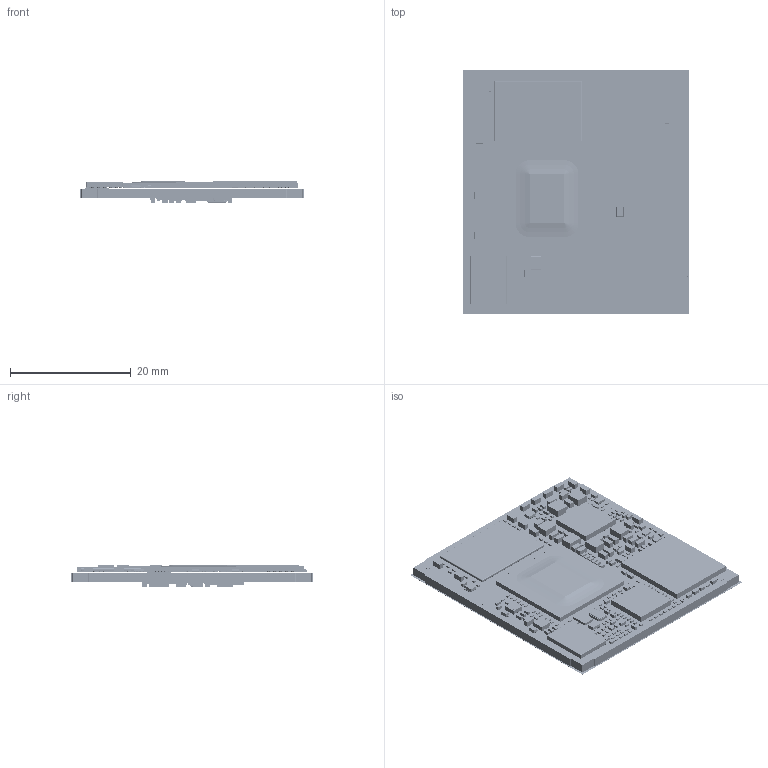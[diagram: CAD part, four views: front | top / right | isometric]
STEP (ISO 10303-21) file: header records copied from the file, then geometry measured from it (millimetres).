
FILE_DESCRIPTION(('STEP AP214'),'1');
FILE_NAME('1617.0_BoardAndModels.step','2023-12-20T09:33:39',(' '),(' '),'Spatial InterOp 3D','XD3DPlugin XRACreate',' ');
FILE_SCHEMA(('automotive_design'));
Length unit declared in the file: millimetre
Products named in the file (130): Submodel-N:\GROUP\DEVELOP\HARDWARE\PCL-078_phyCORE-iMX8MPlus__lpar_FPSC_rpar_\Design\1617.0\002\PCB\Layout\3D\Input_S\0201YC101KAZ2A.xtd; 0201YC101KAZ2A; Submodel-CAP3713_part_simplified_0201; DesignRootModel; Submodel-N:\GROUP\DEVELOP\HARDWARE\PCL-078_phyCORE-iMX8MPlus__lpar_FPSC_rpar_\Design\1617.0\002\PCB\Layout\3D\Input_S\06035C473JAZ7A_0.xtd; 06035C473JAZ7A_0; Submodel-CAP3343_part_simplified_0603-C3; Submodel-N:\GROUP\DEVELOP\HARDWARE\PCL-078_phyCORE-iMX8MPlus__lpar_FPSC_rpar_\Design\1617.0\002\PCB\Layout\3D\Input_S\0402YC822JAZ4A.xtd; 0402YC822JAZ4A; Submodel-CAP722_part_simplified_0402-C3; Submodel-CAP3843_part_simplified_0201; Submodel-N:\GROUP\DEVELOP\HARDWARE\PCL-078_phyCORE-iMX8MPlus__lpar_FPSC_rpar_\Design\1617.0\002\PCB\Layout\3D\Input_S\REMOVE_CONN13663.xtd; REMOVE_CONN13663; Submodel-CONN13663_part_simplified_Testpunkt-0.5mm; Submodel-N:\GROUP\DEVELOP\HARDWARE\PCL-078_phyCORE-iMX8MPlus__lpar_FPSC_rpar_\Design\1617.0\002\PCB\Layout\3D\Input_S\CRCW020110R7JNEF.xtd; CRCW020110R7JNEF; Submodel-RES5653_part_simplified_0201; Submodel-RES6123_part_simplified_0201; Submodel-N:\GROUP\DEVELOP\HARDWARE\PCL-078_phyCORE-iMX8MPlus__lpar_FPSC_rpar_\Design\1617.0\002\PCB\Layout\3D\Input_S\RC0603F1005CS.xtd; RC0603F1005CS; Submodel-RES5673_part_simplified_0201; Submodel-N:\GROUP\DEVELOP\HARDWARE\PCL-078_phyCORE-iMX8MPlus__lpar_FPSC_rpar_\Design\1617.0\002\PCB\Layout\3D\Input_S\C0402C270F5GAC_0.xtd; C0402C270F5GAC_0; Submodel-CAP3793_part_simplified_0402-1230x660um; Submodel-N:\GROUP\DEVELOP\HARDWARE\PCL-078_phyCORE-iMX8MPlus__lpar_FPSC_rpar_\Design\1617.0\002\PCB\Layout\3D\Input_S\xd_sot666_4.xtd; xd_sot666_4; Submodel-ICGEN523_part_simplified_R-PDSO-N6-DRL; Submodel-N:\GROUP\DEVELOP\HARDWARE\PCL-078_phyCORE-iMX8MPlus__lpar_FPSC_rpar_\Design\1617.0\002\PCB\Layout\3D\Input_S\RCC-0402-1000F.xtd; RCC-0402-1000F; Submodel-RES5193_part_simplified_0402; Submodel-N:\GROUP\DEVELOP\HARDWARE\PCL-078_phyCORE-iMX8MPlus__lpar_FPSC_rpar_\Design\1617.0\002\PCB\Layout\3D\Input_S\BLM15BD471SN1D.xtd; BLM15BD471SN1D; Submodel-FILTER92_part_simplified_0402-C3; Submodel-RES5713_part_simplified_0201; Submodel-RES5773_part_simplified_0201; Submodel-CAP3313_part_simplified_0201; Submodel-N:\GROUP\DEVELOP\HARDWARE\PCL-078_phyCORE-iMX8MPlus__lpar_FPSC_rpar_\Design\1617.0\002\PCB\Layout\3D\Input_S\LOGIC1183.xtd; LOGIC1183; Submodel-LOGIC1183_part_simplified_BGA4-40-AC3; Submodel-CAP3003_part_simplified_0201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
Assembly tree (511 placements, depth 5):
  1617.0_BoardAndModels
    DesignRootModel
      Submodel-CAP3713_part_simplified_0201  x20
        Submodel-N:\GROUP\DEVELOP\HARDWARE\PCL-078_phyCORE-iMX8MPlus__lpar_FPSC_rpar_\Design\1617.0\002\PCB\Layout\3D\Input_S\0201YC101KAZ2A.xtd
          0201YC101KAZ2A
      Submodel-CAP3343_part_simplified_0603-C3  x40
        Submodel-N:\GROUP\DEVELOP\HARDWARE\PCL-078_phyCORE-iMX8MPlus__lpar_FPSC_rpar_\Design\1617.0\002\PCB\Layout\3D\Input_S\06035C473JAZ7A_0.xtd
          06035C473JAZ7A_0
      Submodel-CAP722_part_simplified_0402-C3  x29
        Submodel-N:\GROUP\DEVELOP\HARDWARE\PCL-078_phyCORE-iMX8MPlus__lpar_FPSC_rpar_\Design\1617.0\002\PCB\Layout\3D\Input_S\0402YC822JAZ4A.xtd
          0402YC822JAZ4A
      Submodel-CAP3843_part_simplified_0201  x106
        Submodel-N:\GROUP\DEVELOP\HARDWARE\PCL-078_phyCORE-iMX8MPlus__lpar_FPSC_rpar_\Design\1617.0\002\PCB\Layout\3D\Input_S\0201YC101KAZ2A.xtd
          0201YC101KAZ2A
      Submodel-CONN13663_part_simplified_Testpunkt-0.5mm  x7
        Submodel-N:\GROUP\DEVELOP\HARDWARE\PCL-078_phyCORE-iMX8MPlus__lpar_FPSC_rpar_\Design\1617.0\002\PCB\Layout\3D\Input_S\REMOVE_CONN13663.xtd
          REMOVE_CONN13663
      Submodel-RES5653_part_simplified_0201  x13
        Submodel-N:\GROUP\DEVELOP\HARDWARE\PCL-078_phyCORE-iMX8MPlus__lpar_FPSC_rpar_\Design\1617.0\002\PCB\Layout\3D\Input_S\CRCW020110R7JNEF.xtd
          CRCW020110R7JNEF
      Submodel-RES6123_part_simplified_0201  x9
        Submodel-N:\GROUP\DEVELOP\HARDWARE\PCL-078_phyCORE-iMX8MPlus__lpar_FPSC_rpar_\Design\1617.0\002\PCB\Layout\3D\Input_S\CRCW020110R7JNEF.xtd
          CRCW020110R7JNEF
      Submodel-RES5673_part_simplified_0201  x23
        Submodel-N:\GROUP\DEVELOP\HARDWARE\PCL-078_phyCORE-iMX8MPlus__lpar_FPSC_rpar_\Design\1617.0\002\PCB\Layout\3D\Input_S\RC0603F1005CS.xtd
          RC0603F1005CS
      Submodel-CAP3793_part_simplified_0402-1230x660um  x11
        Submodel-N:\GROUP\DEVELOP\HARDWARE\PCL-078_phyCORE-iMX8MPlus__lpar_FPSC_rpar_\Design\1617.0\002\PCB\Layout\3D\Input_S\C0402C270F5GAC_0.xtd
          C0402C270F5GAC_0
      Submodel-ICGEN523_part_simplified_R-PDSO-N6-DRL  x4
        Submodel-N:\GROUP\DEVELOP\HARDWARE\PCL-078_phyCORE-iMX8MPlus__lpar_FPSC_rpar_\Design\1617.0\002\PCB\Layout\3D\Input_S\xd_sot666_4.xtd
          xd_sot666_4
      Submodel-RES5193_part_simplified_0402  x2
        Submodel-N:\GROUP\DEVELOP\HARDWARE\PCL-078_phyCORE-iMX8MPlus__lpar_FPSC_rpar_\Design\1617.0\002\PCB\Layout\3D\Input_S\RCC-0402-1000F.xtd
          RCC-0402-1000F
      Submodel-FILTER92_part_simplified_0402-C3  x8
        Submodel-N:\GROUP\DEVELOP\HARDWARE\PCL-078_phyCORE-iMX8MPlus__lpar_FPSC_rpar_\Design\1617.0\002\PCB\Layout\3D\Input_S\BLM15BD471SN1D.xtd
          BLM15BD471SN1D
      Submodel-RES5713_part_simplified_0201  x14
        Submodel-N:\GROUP\DEVELOP\HARDWARE\PCL-078_phyCORE-iMX8MPlus__lpar_FPSC_rpar_\Design\1617.0\002\PCB\Layout\3D\Input_S\RC0603F1005CS.xtd
          RC0603F1005CS
      Submodel-RES5773_part_simplified_0201  x6
        Submodel-N:\GROUP\DEVELOP\HARDWARE\PCL-078_phyCORE-iMX8MPlus__lpar_FPSC_rpar_\Design\1617.0\002\PCB\Layout\3D\Input_S\RC0603F1005CS.xtd
          RC0603F1005CS
      Submodel-CAP3313_part_simplified_0201  x2
        Submodel-N:\GROUP\DEVELOP\HARDWARE\PCL-078_phyCORE-iMX8MPlus__lpar_FPSC_rpar_\Design\1617.0\002\PCB\Layout\3D\Input_S\0201YC101KAZ2A.xtd
          0201YC101KAZ2A
      Submodel-LOGIC1183_part_simplified_BGA4-40-AC3
        Submodel-N:\GROUP\DEVELOP\HARDWARE\PCL-078_phyCORE-iMX8MPlus__lpar_FPSC_rpar_\Design\1617.0\002\PCB\Layout\3D\Input_S\LOGIC1183.xtd
          LOGIC1183
      Submodel-CAP3003_part_simplified_0201  x4
        Submodel-N:\GROUP\DEVELOP\HARDWARE\PCL-078_phyCORE-iMX8MPlus__lpar_FPSC_rpar_\Design\1617.0\002\PCB\Layout\3D\Input_S\0201YC101KAZ2A.xtd
          0201YC101KAZ2A
      Submodel-EEPROM202_part_simplified_DFN8-50-EP1_comma_2x1_comma_2
        Submodel-N:\GROUP\DEVELOP\HARDWARE\PCL-078_phyCORE-iMX8MPlus__lpar_FPSC_rpar_\Design\1617.0\002\PCB\Layout\3D\Input_S\EEPROM202.xtd
          EEPROM202
      Submodel-TRANSISTOR932_part_simplified_DFN-0806-3  x8
        Submodel-N:\GROUP\DEVELOP\HARDWARE\PCL-078_phyCORE-iMX8MPlus__lpar_FPSC_rpar_\Design\1617.0\002\PCB\Layout\3D\Input_S\TRANSISTOR932.xtd
          TRANSISTOR932
      Submodel-CAP3663_part_simplified_0402-C3  x2
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Bounding box: 37.4 x 40.4 x 3.73 mm (x, y, z)
Volume: 2935.8 mm3; surface area: 9200 mm2
Topology: 1483 solids, 1483 shells, 7427 faces, 17879 edges, 11542 vertices
Faces by surface type: plane 5108, sphere 1918, cylinder 373, torus 24, bspline 4
Full cylindrical faces by diameter (mm): 0.25 x2
Entity records: 162826 total; most frequent: DIRECTION 22060, CARTESIAN_POINT 18425, ORIENTED_EDGE 15516, AXIS2_PLACEMENT_3D 9230, EDGE_CURVE 7758, PRESENTATION_STYLE_ASSIGNMENT 6426, COLOUR_RGB 6426, STYLED_ITEM 6418
